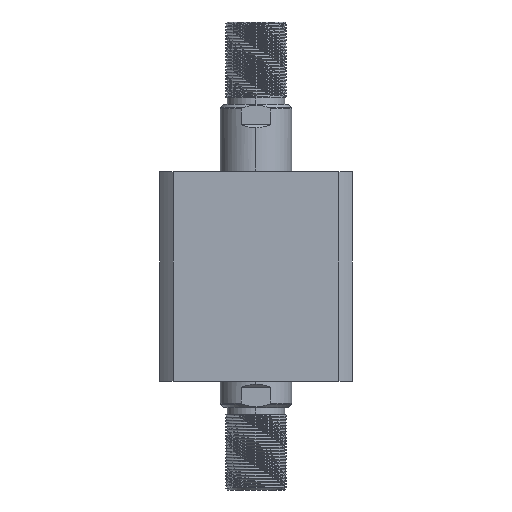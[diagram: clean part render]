
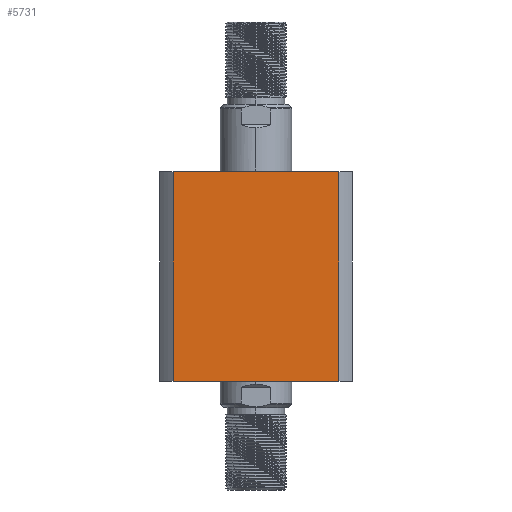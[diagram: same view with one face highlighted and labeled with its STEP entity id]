
A CAD part, left-side view. The second image highlights one B-rep face of the part: STEP entity #5731.
In plain terms, the highlighted planar face has unit normal (-1, 0, 0).
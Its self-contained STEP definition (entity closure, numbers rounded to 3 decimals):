
#519 = ORIENTED_EDGE ( 'NONE', *, *, #18220, .F. ) ;
#694 = LINE ( 'NONE', #20771, #12010 ) ;
#1325 = DIRECTION ( 'NONE',  ( 0., -1., 0. ) ) ;
#1769 = DIRECTION ( 'NONE',  ( 0., 0., -1. ) ) ;
#2842 = PLANE ( 'NONE',  #9878 ) ;
#3684 = LINE ( 'NONE', #4327, #8655 ) ;
#4327 = CARTESIAN_POINT ( 'NONE',  ( -47., 40.435, 300. ) ) ;
#4510 = VERTEX_POINT ( 'NONE', #23723 ) ;
#4978 = DIRECTION ( 'NONE',  ( 0., 1., 0. ) ) ;
#5568 = LINE ( 'NONE', #14526, #17576 ) ;
#5605 = ORIENTED_EDGE ( 'NONE', *, *, #16040, .F. ) ;
#5731 = ADVANCED_FACE ( 'NONE', ( #13747 ), #2842, .F. ) ;
#5850 = DIRECTION ( 'NONE',  ( 0., -1., 0. ) ) ;
#6302 = CARTESIAN_POINT ( 'NONE',  ( -47., -40.435, 0. ) ) ;
#6442 = DIRECTION ( 'NONE',  ( 0., 0., 1. ) ) ;
#8238 = VECTOR ( 'NONE', #1325, 1000. ) ;
#8655 = VECTOR ( 'NONE', #6442, 1000. ) ;
#8921 = LINE ( 'NONE', #24724, #8238 ) ;
#9878 = AXIS2_PLACEMENT_3D ( 'NONE', #15523, #17731, #4978 ) ;
#9952 = EDGE_CURVE ( 'NONE', #4510, #22110, #5568, .T. ) ;
#12010 = VECTOR ( 'NONE', #5850, 1000. ) ;
#12086 = VERTEX_POINT ( 'NONE', #13199 ) ;
#13199 = CARTESIAN_POINT ( 'NONE',  ( -47., 40.435, 0. ) ) ;
#13747 = FACE_OUTER_BOUND ( 'NONE', #16019, .T. ) ;
#14526 = CARTESIAN_POINT ( 'NONE',  ( -47., -40.435, 300. ) ) ;
#15523 = CARTESIAN_POINT ( 'NONE',  ( -47., 47., 102. ) ) ;
#16019 = EDGE_LOOP ( 'NONE', ( #26380, #5605, #519, #19573 ) ) ;
#16040 = EDGE_CURVE ( 'NONE', #17979, #4510, #8921, .T. ) ;
#17576 = VECTOR ( 'NONE', #1769, 1000. ) ;
#17731 = DIRECTION ( 'NONE',  ( 1., 0., 0. ) ) ;
#17979 = VERTEX_POINT ( 'NONE', #24902 ) ;
#18220 = EDGE_CURVE ( 'NONE', #12086, #17979, #3684, .T. ) ;
#19573 = ORIENTED_EDGE ( 'NONE', *, *, #21856, .T. ) ;
#20771 = CARTESIAN_POINT ( 'NONE',  ( -47., 47., 0. ) ) ;
#21856 = EDGE_CURVE ( 'NONE', #12086, #22110, #694, .T. ) ;
#22110 = VERTEX_POINT ( 'NONE', #6302 ) ;
#23723 = CARTESIAN_POINT ( 'NONE',  ( -47., -40.435, 102. ) ) ;
#24724 = CARTESIAN_POINT ( 'NONE',  ( -47., 47., 102. ) ) ;
#24902 = CARTESIAN_POINT ( 'NONE',  ( -47., 40.435, 102. ) ) ;
#26380 = ORIENTED_EDGE ( 'NONE', *, *, #9952, .F. ) ;
